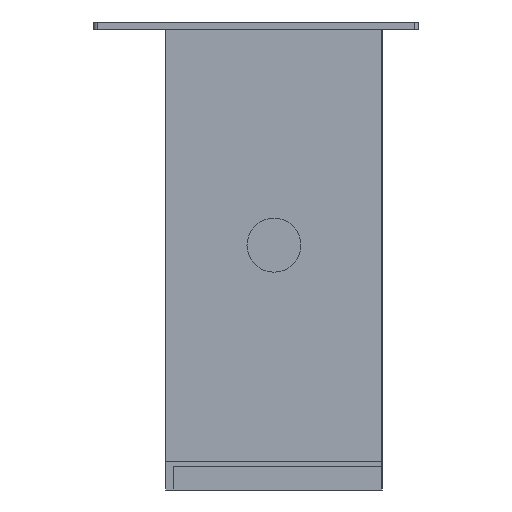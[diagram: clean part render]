
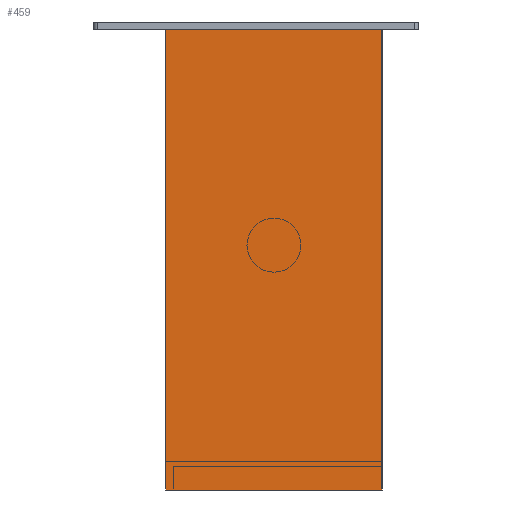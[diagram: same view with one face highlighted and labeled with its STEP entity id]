
A CAD part, left-side view. The second image highlights one B-rep face of the part: STEP entity #459.
In plain terms, the highlighted planar face has unit normal (-1, 0, 0).
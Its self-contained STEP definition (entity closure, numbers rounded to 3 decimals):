
#88 = CARTESIAN_POINT ( 'NONE',  ( 0., 60., 0. ) ) ;
#94 = CARTESIAN_POINT ( 'NONE',  ( 0., 0., 0. ) ) ;
#103 = DIRECTION ( 'NONE',  ( 0., 0., -1. ) ) ;
#172 = ORIENTED_EDGE ( 'NONE', *, *, #2047, .F. ) ;
#197 = DIRECTION ( 'NONE',  ( 0., 1., 0. ) ) ;
#213 = EDGE_CURVE ( 'NONE', #676, #424, #1434, .T. ) ;
#230 = VECTOR ( 'NONE', #1445, 1000. ) ;
#411 = VECTOR ( 'NONE', #103, 1000. ) ;
#417 = EDGE_CURVE ( 'NONE', #424, #1420, #962, .T. ) ;
#424 = VERTEX_POINT ( 'NONE', #1822 ) ;
#431 = LINE ( 'NONE', #1740, #2012 ) ;
#442 = ORIENTED_EDGE ( 'NONE', *, *, #213, .F. ) ;
#459 = ADVANCED_FACE ( 'NONE', ( #630 ), #643, .F. ) ;
#461 = DIRECTION ( 'NONE',  ( 0., 0., -1. ) ) ;
#630 = FACE_OUTER_BOUND ( 'NONE', #969, .T. ) ;
#643 = PLANE ( 'NONE',  #1460 ) ;
#676 = VERTEX_POINT ( 'NONE', #88 ) ;
#702 = CARTESIAN_POINT ( 'NONE',  ( 0., 0., -128. ) ) ;
#819 = CARTESIAN_POINT ( 'NONE',  ( 0., 60., -128. ) ) ;
#962 = LINE ( 'NONE', #94, #411 ) ;
#969 = EDGE_LOOP ( 'NONE', ( #442, #1134, #172, #1640 ) ) ;
#1134 = ORIENTED_EDGE ( 'NONE', *, *, #1316, .F. ) ;
#1213 = LINE ( 'NONE', #702, #1222 ) ;
#1222 = VECTOR ( 'NONE', #197, 1000. ) ;
#1316 = EDGE_CURVE ( 'NONE', #1437, #676, #431, .T. ) ;
#1323 = CARTESIAN_POINT ( 'NONE',  ( 0., 0., 0. ) ) ;
#1404 = CARTESIAN_POINT ( 'NONE',  ( 0., 60., 0. ) ) ;
#1420 = VERTEX_POINT ( 'NONE', #1518 ) ;
#1434 = LINE ( 'NONE', #1404, #230 ) ;
#1437 = VERTEX_POINT ( 'NONE', #819 ) ;
#1445 = DIRECTION ( 'NONE',  ( 0., -1., 0. ) ) ;
#1460 = AXIS2_PLACEMENT_3D ( 'NONE', #1323, #2008, #461 ) ;
#1518 = CARTESIAN_POINT ( 'NONE',  ( 0., 0., -128. ) ) ;
#1640 = ORIENTED_EDGE ( 'NONE', *, *, #417, .F. ) ;
#1643 = DIRECTION ( 'NONE',  ( 0., 0., 1. ) ) ;
#1740 = CARTESIAN_POINT ( 'NONE',  ( 0., 60., -128. ) ) ;
#1822 = CARTESIAN_POINT ( 'NONE',  ( 0., 0., 0. ) ) ;
#2008 = DIRECTION ( 'NONE',  ( 1., 0., 0. ) ) ;
#2012 = VECTOR ( 'NONE', #1643, 1000. ) ;
#2047 = EDGE_CURVE ( 'NONE', #1420, #1437, #1213, .T. ) ;
